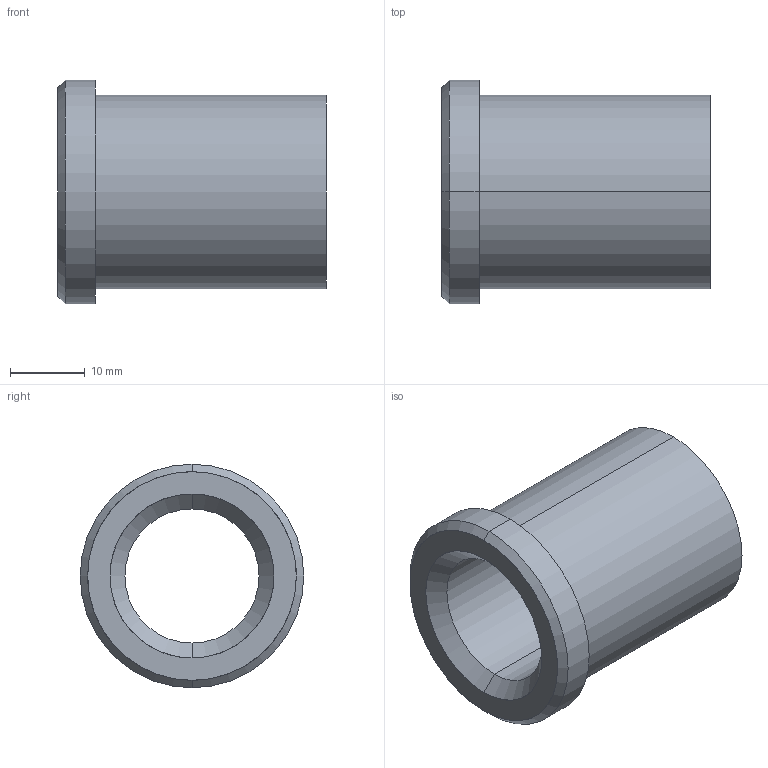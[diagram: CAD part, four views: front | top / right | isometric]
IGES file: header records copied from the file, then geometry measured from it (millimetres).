
Start section: START RECORD GO HERE.
Global section: file name: 353-18X36.igs; native system: DASSAULT SYSTEMES CATIA V5 R20 - www.3ds.com; preprocessor: CATIA Version 5 Release 20 ; author: Utente; organization: NB04-ASUS; date: 20210508.104331; units: millimetre
Bounding box: 36 x 30 x 30 mm (x, y, z)
Surface area: 5790.9 mm2 (no closed solid volume)
Topology: 0 solids, 0 shells, 15 faces, 96 edges, 96 vertices
Faces by surface type: revolution 12, plane 3
